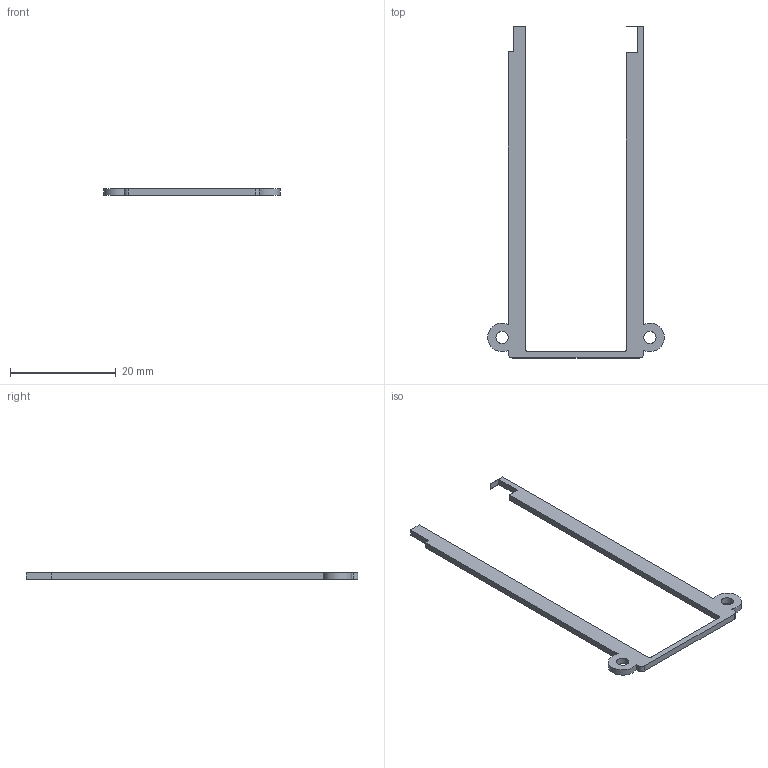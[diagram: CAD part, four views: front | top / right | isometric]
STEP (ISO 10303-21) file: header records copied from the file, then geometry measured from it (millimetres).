
FILE_DESCRIPTION(/* description */ (''),/* implementation_level */ '2;1');
FILE_NAME(/* name */ 'C27_R2_LTE_Lower_Service_Frame.step',/* time_stamp */ '2026-09-10T17:49:27-07:00',/* author */ (''),/* organization */ (''),/* preprocessor_version */ 'ST-DEVELOPER v20.1',/* originating_system */ 'Autodesk Translation Framework v15.8.0.0',/* authorisation */ '');
FILE_SCHEMA (('AUTOMOTIVE_DESIGN { 1 0 10303 214 3 1 1 }'));
Length unit declared in the file: millimetre
Products named in the file (1): 2026-09-10-17-49-27-486
Bounding box: 33.4 x 62.85 x 1.2 mm (x, y, z)
Volume: 537.3 mm3; surface area: 1291.8 mm2
Topology: 1 solids, 1 shells, 26 faces, 72 edges, 48 vertices
Faces by surface type: plane 18, cylinder 8
Full cylindrical faces by diameter (mm): 2.3 x2
Entity records: 873 total; most frequent: CARTESIAN_POINT 147, ORIENTED_EDGE 144, DIRECTION 142, EDGE_CURVE 72, LINE 56, VECTOR 56, VERTEX_POINT 48, AXIS2_PLACEMENT_3D 43
